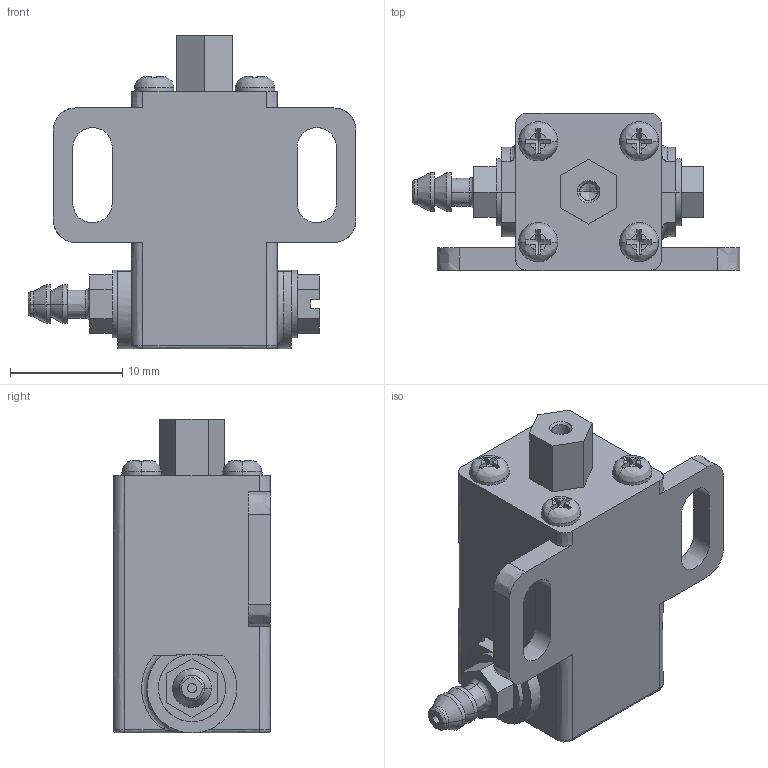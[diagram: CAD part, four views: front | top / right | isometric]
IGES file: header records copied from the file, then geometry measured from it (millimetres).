
Start section:  PTC IGES file: 200122_umcd-5.igs
Global section: file name: 200122_umcd-5.igs; native system: Pro/ENGINEER by Parametric Technology Corporation; preprocessor: 2004090; author: KAIHATSU01; organization: Unknown; date: 061017.091101; units: millimetre
Bounding box: 29.25 x 14 x 28 mm (x, y, z)
Volume: 4762.8 mm3; surface area: 2330.8 mm2
Topology: 1 solids, 1 shells, 187 faces, 494 edges, 311 vertices
Faces by surface type: bspline 187
